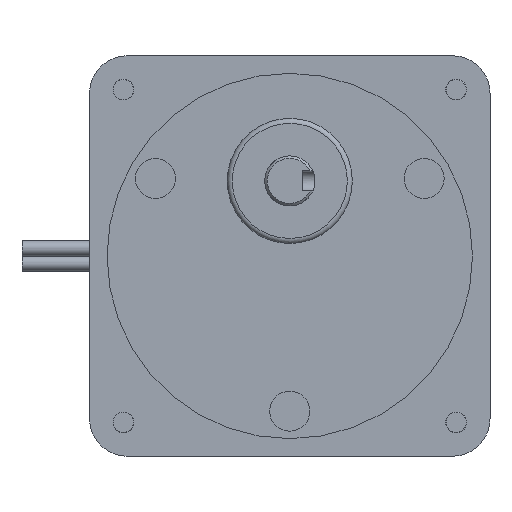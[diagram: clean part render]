
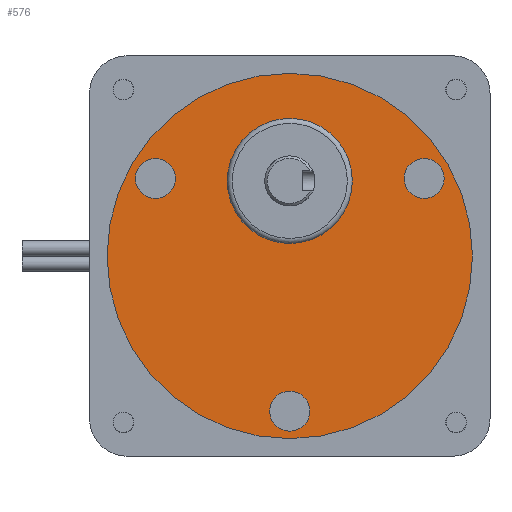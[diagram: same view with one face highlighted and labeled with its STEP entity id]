
A CAD part, front view. The second image highlights one B-rep face of the part: STEP entity #576.
In plain terms, the highlighted planar face has unit normal (0, -1, 0).
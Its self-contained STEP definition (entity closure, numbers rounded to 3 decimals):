
#436=CARTESIAN_POINT('',(24.847,0.5,18.964));
#437=VERTEX_POINT('',#436);
#438=CARTESIAN_POINT('',(26.847,0.5,15.5));
#439=DIRECTION('',(0.0,1.0,0.0));
#440=DIRECTION('',(0.5,0.0,-0.866));
#441=AXIS2_PLACEMENT_3D('',#438,#439,#440);
#442=CIRCLE('',#441,4.);
#443=EDGE_CURVE('',#437,#437,#442,.T.);
#473=CARTESIAN_POINT('',(-28.847,0.5,12.036));
#474=VERTEX_POINT('',#473);
#475=CARTESIAN_POINT('',(-26.847,0.5,15.5));
#476=DIRECTION('',(0.0,1.,0.0));
#477=DIRECTION('',(0.5,0.0,0.866));
#478=AXIS2_PLACEMENT_3D('',#475,#476,#477);
#479=CIRCLE('',#478,4.0);
#480=EDGE_CURVE('',#474,#474,#479,.T.);
#510=CARTESIAN_POINT('',(4.0,0.5,-31.0));
#511=VERTEX_POINT('',#510);
#512=CARTESIAN_POINT('',(0.0,0.5,-31.0));
#513=DIRECTION('',(0.0,1.0,0.0));
#514=DIRECTION('',(-1.0,0.0,0.0));
#515=AXIS2_PLACEMENT_3D('',#512,#513,#514);
#516=CIRCLE('',#515,4.0);
#517=EDGE_CURVE('',#511,#511,#516,.T.);
#536=CARTESIAN_POINT('',(36.5,0.5,0.));
#537=VERTEX_POINT('',#536);
#538=CARTESIAN_POINT('',(0.0,0.5,0.0));
#539=DIRECTION('',(0.0,-1.0,0.0));
#540=DIRECTION('',(-1.0,0.0,0.0));
#541=AXIS2_PLACEMENT_3D('',#538,#539,#540);
#542=CIRCLE('',#541,36.5);
#543=EDGE_CURVE('',#537,#537,#542,.T.);
#559=CARTESIAN_POINT('',(0.0,0.5,0.0));
#560=DIRECTION('',(0.0,1.0,0.0));
#561=DIRECTION('',(0.0,0.0,1.0));
#562=AXIS2_PLACEMENT_3D('',#559,#560,#561);
#563=PLANE('',#562);
#564=ORIENTED_EDGE('',*,*,#543,.T.);
#565=EDGE_LOOP('',(#564));
#566=FACE_OUTER_BOUND('',#565,.T.);
#567=ORIENTED_EDGE('',*,*,#443,.T.);
#568=EDGE_LOOP('',(#567));
#569=FACE_BOUND('',#568,.T.);
#570=ORIENTED_EDGE('',*,*,#480,.T.);
#571=EDGE_LOOP('',(#570));
#572=FACE_BOUND('',#571,.T.);
#573=ORIENTED_EDGE('',*,*,#517,.T.);
#574=EDGE_LOOP('',(#573));
#575=FACE_BOUND('',#574,.T.);
#576=ADVANCED_FACE('',(#566,#569,#572,#575),#563,.F.);
